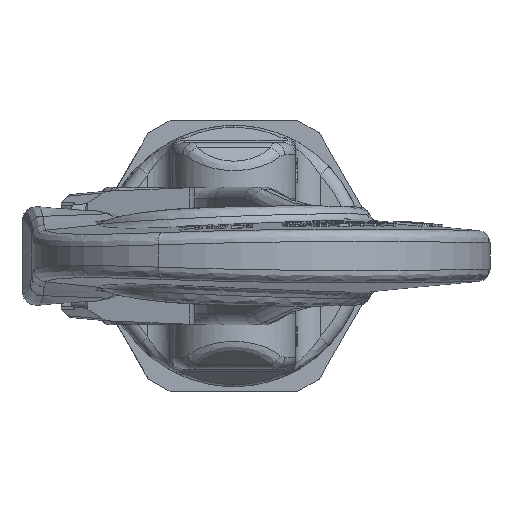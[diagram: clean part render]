
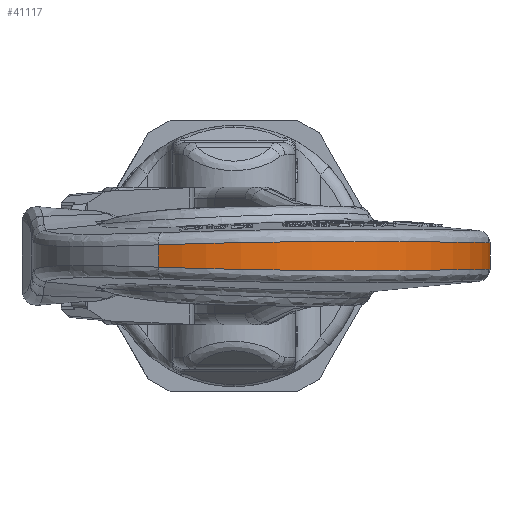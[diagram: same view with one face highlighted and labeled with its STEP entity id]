
A CAD part, left-side view. The second image highlights one B-rep face of the part: STEP entity #41117.
In plain terms, the highlighted cylindrical face has radius 49 mm (diameter 98 mm), a partial arc.
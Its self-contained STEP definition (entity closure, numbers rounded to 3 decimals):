
#27330=DIRECTION('',(0.,0.,1.));
#27331=VECTOR('',#27330,4.523);
#27332=CARTESIAN_POINT('',(-15.375,45.424,
-2.262));
#27333=LINE('',#27332,#27331);
#27334=CARTESIAN_POINT('',(-15.375,45.424,
2.262));
#27377=CARTESIAN_POINT('',(-15.375,45.424,
-2.262));
#27406=DIRECTION('',(0.,0.,1.));
#27407=VECTOR('',#27406,5.582);
#27408=CARTESIAN_POINT('',(31.603,-39.785,
-2.791));
#27409=LINE('',#27408,#27407);
#27410=CARTESIAN_POINT('',(31.603,-39.785,
2.791));
#27411=CARTESIAN_POINT('',(32.163,-39.383,
2.783));
#27412=CARTESIAN_POINT('',(33.286,-38.538,
2.768));
#27413=CARTESIAN_POINT('',(34.891,-37.224,
2.749));
#27414=CARTESIAN_POINT('',(36.671,-35.628,
2.731));
#27415=CARTESIAN_POINT('',(38.532,-33.779,
2.715));
#27416=CARTESIAN_POINT('',(40.506,-31.584,
2.699));
#27417=CARTESIAN_POINT('',(42.565,-28.978,
2.685));
#27418=CARTESIAN_POINT('',(44.645,-25.917,
2.676));
#27419=CARTESIAN_POINT('',(45.966,-23.597,
2.675));
#27420=CARTESIAN_POINT('',(46.6,-22.362,
2.676));
#27422=CARTESIAN_POINT('',(46.6,-22.362,
2.676));
#27423=CARTESIAN_POINT('',(47.27,-21.056,2.67));
#27424=CARTESIAN_POINT('',(48.491,-18.385,
2.659));
#27425=CARTESIAN_POINT('',(49.957,-14.231,
2.65));
#27426=CARTESIAN_POINT('',(51.044,-9.961,
2.649));
#27427=CARTESIAN_POINT('',(51.744,-5.611,
2.653));
#27428=CARTESIAN_POINT('',(52.051,-1.216,
2.663));
#27429=CARTESIAN_POINT('',(51.962,3.189,2.678));
#27430=CARTESIAN_POINT('',(51.479,7.568,2.698));
#27431=CARTESIAN_POINT('',(50.604,11.886,2.72));
#27432=CARTESIAN_POINT('',(49.346,16.109,2.746));
#27433=CARTESIAN_POINT('',(47.714,20.201,2.773));
#27434=CARTESIAN_POINT('',(45.722,24.131,2.8));
#27435=CARTESIAN_POINT('',(43.385,27.866,2.828));
#27436=CARTESIAN_POINT('',(40.723,31.376,2.854));
#27437=CARTESIAN_POINT('',(37.756,34.634,2.878));
#27438=CARTESIAN_POINT('',(34.509,37.612,2.899));
#27439=CARTESIAN_POINT('',(31.009,40.286,2.915));
#27440=CARTESIAN_POINT('',(27.283,42.636,2.924));
#27441=CARTESIAN_POINT('',(23.361,44.642,2.925));
#27442=CARTESIAN_POINT('',(19.276,46.288,2.916));
#27443=CARTESIAN_POINT('',(15.06,47.561,2.895));
#27444=CARTESIAN_POINT('',(10.748,48.45,2.86));
#27445=CARTESIAN_POINT('',(6.373,48.95,2.808));
#27446=CARTESIAN_POINT('',(1.975,49.055,2.737));
#27447=CARTESIAN_POINT('',(-2.423,48.765,
2.643));
#27448=CARTESIAN_POINT('',(-6.752,48.087,
2.528));
#27449=CARTESIAN_POINT('',(-11.096,47.001,
2.398));
#27450=CARTESIAN_POINT('',(-13.958,45.997,
2.307));
#27451=CARTESIAN_POINT('',(-15.375,45.424,
2.262));
#27453=CARTESIAN_POINT('',(46.6,-22.362,
-2.676));
#27454=CARTESIAN_POINT('',(47.27,-21.056,-2.67));
#27455=CARTESIAN_POINT('',(48.491,-18.385,
-2.659));
#27456=CARTESIAN_POINT('',(49.957,-14.231,
-2.65));
#27457=CARTESIAN_POINT('',(51.044,-9.961,
-2.649));
#27458=CARTESIAN_POINT('',(51.744,-5.611,
-2.653));
#27459=CARTESIAN_POINT('',(52.051,-1.216,
-2.663));
#27460=CARTESIAN_POINT('',(51.962,3.189,
-2.678));
#27461=CARTESIAN_POINT('',(51.479,7.568,
-2.698));
#27462=CARTESIAN_POINT('',(50.604,11.886,
-2.72));
#27463=CARTESIAN_POINT('',(49.346,16.109,
-2.746));
#27464=CARTESIAN_POINT('',(47.714,20.201,
-2.773));
#27465=CARTESIAN_POINT('',(45.722,24.131,
-2.8));
#27466=CARTESIAN_POINT('',(43.385,27.866,
-2.828));
#27467=CARTESIAN_POINT('',(40.723,31.376,
-2.854));
#27468=CARTESIAN_POINT('',(37.756,34.634,
-2.878));
#27469=CARTESIAN_POINT('',(34.509,37.612,
-2.899));
#27470=CARTESIAN_POINT('',(31.009,40.286,
-2.915));
#27471=CARTESIAN_POINT('',(27.283,42.636,
-2.924));
#27472=CARTESIAN_POINT('',(23.361,44.642,
-2.925));
#27473=CARTESIAN_POINT('',(19.276,46.288,
-2.916));
#27474=CARTESIAN_POINT('',(15.06,47.561,
-2.895));
#27475=CARTESIAN_POINT('',(10.748,48.45,
-2.86));
#27476=CARTESIAN_POINT('',(6.373,48.95,
-2.808));
#27477=CARTESIAN_POINT('',(1.975,49.055,
-2.737));
#27478=CARTESIAN_POINT('',(-2.423,48.765,
-2.643));
#27479=CARTESIAN_POINT('',(-6.752,48.087,
-2.528));
#27480=CARTESIAN_POINT('',(-11.096,47.001,
-2.398));
#27481=CARTESIAN_POINT('',(-13.958,45.997,
-2.307));
#27482=CARTESIAN_POINT('',(-15.375,45.424,
-2.262));
#27484=CARTESIAN_POINT('',(31.603,-39.785,
-2.791));
#27485=CARTESIAN_POINT('',(32.163,-39.383,
-2.783));
#27486=CARTESIAN_POINT('',(33.286,-38.538,
-2.768));
#27487=CARTESIAN_POINT('',(34.891,-37.224,
-2.749));
#27488=CARTESIAN_POINT('',(36.671,-35.628,
-2.731));
#27489=CARTESIAN_POINT('',(38.532,-33.779,
-2.715));
#27490=CARTESIAN_POINT('',(40.506,-31.584,
-2.699));
#27491=CARTESIAN_POINT('',(42.565,-28.978,
-2.685));
#27492=CARTESIAN_POINT('',(44.645,-25.917,
-2.676));
#27493=CARTESIAN_POINT('',(45.966,-23.597,
-2.675));
#27494=CARTESIAN_POINT('',(46.6,-22.362,
-2.676));
#40054=VERTEX_POINT('',#27377);
#40056=VERTEX_POINT('',#27453);
#40059=VERTEX_POINT('',#27484);
#40234=VERTEX_POINT('',#27334);
#40236=VERTEX_POINT('',#27422);
#40239=VERTEX_POINT('',#27410);
#41099=CARTESIAN_POINT('',(3.,0.,0.));
#41100=DIRECTION('',(0.,0.,1.));
#41101=DIRECTION('',(1.,0.,0.));
#41102=AXIS2_PLACEMENT_3D('',#41099,#41100,#41101);
#41103=CYLINDRICAL_SURFACE('',#41102,49.);
#41105=ORIENTED_EDGE('',*,*,#41104,.T.);
#41107=ORIENTED_EDGE('',*,*,#41106,.T.);
#41109=ORIENTED_EDGE('',*,*,#41108,.T.);
#41110=ORIENTED_EDGE('',*,*,#41085,.F.);
#41112=ORIENTED_EDGE('',*,*,#41111,.F.);
#41114=ORIENTED_EDGE('',*,*,#41113,.F.);
#41115=EDGE_LOOP('',(#41105,#41107,#41109,#41110,#41112,#41114));
#41116=FACE_OUTER_BOUND('',#41115,.F.);
#41117=ADVANCED_FACE('',(#41116),#41103,.T.);
#27421=B_SPLINE_CURVE_WITH_KNOTS('',3,(#27410,#27411,#27412,#27413,#27414,
#27415,#27416,#27417,#27418,#27419,#27420),.UNSPECIFIED.,.F.,.F.,(4,1,1,1,1,1,1,
1,4),(0.,0.125,0.25,0.375,0.5,0.625,0.75,0.875,1.),
.UNSPECIFIED.);
#27452=B_SPLINE_CURVE_WITH_KNOTS('',3,(#27422,#27423,#27424,#27425,#27426,
#27427,#27428,#27429,#27430,#27431,#27432,#27433,#27434,#27435,#27436,#27437,
#27438,#27439,#27440,#27441,#27442,#27443,#27444,#27445,#27446,#27447,#27448,
#27449,#27450,#27451),.UNSPECIFIED.,.F.,.F.,(4,1,1,1,1,1,1,1,1,1,1,1,1,1,1,1,1,
1,1,1,1,1,1,1,1,1,1,4),(0.,0.037,0.074,
0.111,0.148,0.185,0.222,
0.259,0.296,0.333,0.37,
0.407,0.444,0.481,0.519,
0.556,0.593,0.63,0.667,
0.704,0.741,0.778,0.815,
0.852,0.889,0.926,0.963,1.),
.UNSPECIFIED.);
#27483=B_SPLINE_CURVE_WITH_KNOTS('',3,(#27453,#27454,#27455,#27456,#27457,
#27458,#27459,#27460,#27461,#27462,#27463,#27464,#27465,#27466,#27467,#27468,
#27469,#27470,#27471,#27472,#27473,#27474,#27475,#27476,#27477,#27478,#27479,
#27480,#27481,#27482),.UNSPECIFIED.,.F.,.F.,(4,1,1,1,1,1,1,1,1,1,1,1,1,1,1,1,1,
1,1,1,1,1,1,1,1,1,1,4),(0.,0.037,0.074,
0.111,0.148,0.185,0.222,
0.259,0.296,0.333,0.37,
0.407,0.444,0.481,0.519,
0.556,0.593,0.63,0.667,
0.704,0.741,0.778,0.815,
0.852,0.889,0.926,0.963,1.),
.UNSPECIFIED.);
#27495=B_SPLINE_CURVE_WITH_KNOTS('',3,(#27484,#27485,#27486,#27487,#27488,
#27489,#27490,#27491,#27492,#27493,#27494),.UNSPECIFIED.,.F.,.F.,(4,1,1,1,1,1,1,
1,4),(0.,0.125,0.25,0.375,0.5,0.625,0.75,0.875,1.),
.UNSPECIFIED.);
#41085=EDGE_CURVE('',#40054,#40234,#27333,.T.);
#41104=EDGE_CURVE('',#40059,#40239,#27409,.T.);
#41106=EDGE_CURVE('',#40239,#40236,#27421,.T.);
#41108=EDGE_CURVE('',#40236,#40234,#27452,.T.);
#41111=EDGE_CURVE('',#40056,#40054,#27483,.T.);
#41113=EDGE_CURVE('',#40059,#40056,#27495,.T.);
